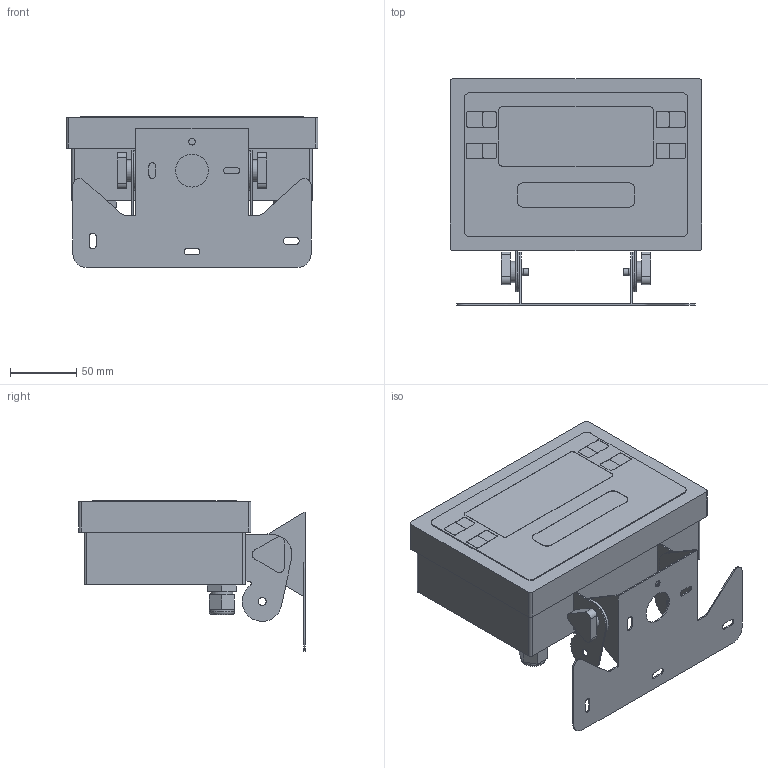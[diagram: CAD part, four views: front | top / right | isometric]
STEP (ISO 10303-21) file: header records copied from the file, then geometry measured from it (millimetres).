
FILE_DESCRIPTION(/* description */ ('STEP AP203'),/* implementation_level */ '2;1');
FILE_NAME(/* name */ '3103C-MESA',/* time_stamp */ '2023-10-23T13:00:21+02:00',/* author */ ('License CC BY-ND 4.0'),/* organization */ ('CADENAS'),/* preprocessor_version */ 'ST-DEVELOPER v19.3',/* originating_system */ 'PARTsolutions',/* authorisation */ ' ');
FILE_SCHEMA (('CONFIG_CONTROL_DESIGN'));
Length unit declared in the file: millimetre
Products named in the file (3): 3103C-MESA; 31XXC_SUPPORT; 3103C_BODY
Assembly tree (2 placements, depth 2):
  3103C-MESA
    31XXC_SUPPORT
    3103C_BODY
Bounding box: 190 x 171 x 114 mm (x, y, z)
Volume: 1517235.6 mm3; surface area: 144365.6 mm2
Topology: 2 solids, 2 shells, 300 faces, 743 edges, 489 vertices
Faces by surface type: plane 190, cylinder 104, torus 4, cone 2
Full cylindrical faces by diameter (mm): 5 x7, 5.4 x2, 6 x4, 7.25 x2, 10.5 x2, 13 x2, 14.8 x2, 16 x2, 16.5 x2, 19.1 x2, 25 x1, 30 x2
Entity records: 10901 total; most frequent: DIRECTION 1534, CARTESIAN_POINT 1493, ORIENTED_EDGE 1408, EDGE_CURVE 704, AXIS2_PLACEMENT_3D 527, VERTEX_POINT 486, LINE 480, VECTOR 480
